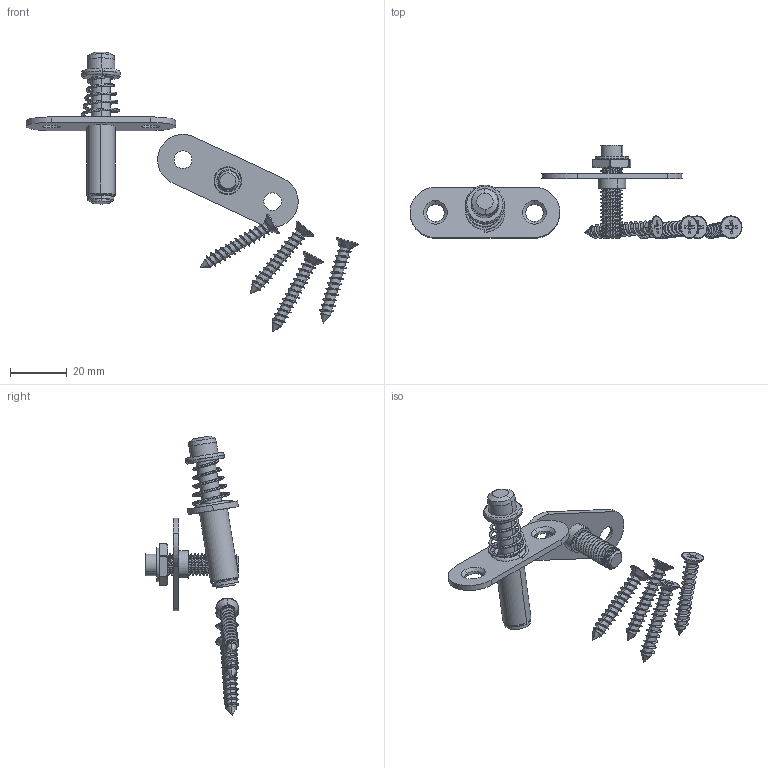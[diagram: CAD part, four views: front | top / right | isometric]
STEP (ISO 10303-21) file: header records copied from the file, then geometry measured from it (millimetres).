
FILE_DESCRIPTION (( 'STEP AP203' ), '1' );
FILE_NAME ('15.08.192-0 Invisible Pivot Hinge W_Spring Tention 360DG Rotation Steel.STEP', '2025-10-22T06:07:29', ( '' ), ( '' ), 'SwSTEP 2.0', 'SolidWorks 2024', '' );
FILE_SCHEMA (( 'CONFIG_CONTROL_DESIGN' ));
Length unit declared in the file: millimetre
Products named in the file (9): 15.08.192 Bottom adjustment housing and screw; CSK Chipboardscrew; 15.08.192 Bottom housing_simple edition; 15.08.192 Bottom housing; 15.08.192 Bottom adjustment screw M8x1,25; #Spring; 15.08.192 Top Rod; 15.08.192 Top Rod and Spring; 15.08.192-0 Invisible Pivot Hinge W_Spring Tention 360DG Rotation Steel
Assembly tree (11 placements, depth 3):
  15.08.192-0 Invisible Pivot Hinge W_Spring Tention 360DG Rotation Steel
    15.08.192 Bottom adjustment housing and screw
      15.08.192 Bottom housing_simple edition
      15.08.192 Bottom adjustment screw M8x1,25
    15.08.192 Top Rod and Spring
      15.08.192 Bottom housing
      15.08.192 Top Rod
      #Spring
    CSK Chipboardscrew  x4
Bounding box: 117.4 x 32.9 x 98.93 mm (x, y, z)
Volume: 9746.2 mm3; surface area: 11884.4 mm2
Topology: 9 solids, 9 shells, 492 faces, 1330 edges, 862 vertices
Faces by surface type: cylinder 306, plane 89, cone 38, torus 31, bspline 28
Entity records: 27002 total; most frequent: CARTESIAN_POINT 18802, ORIENTED_EDGE 1744, DIRECTION 1308, EDGE_CURVE 872, VERTEX_POINT 565, AXIS2_PLACEMENT_3D 509, EDGE_LOOP 353, FACE_OUTER_BOUND 330
